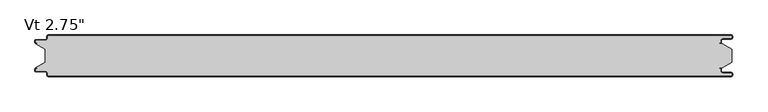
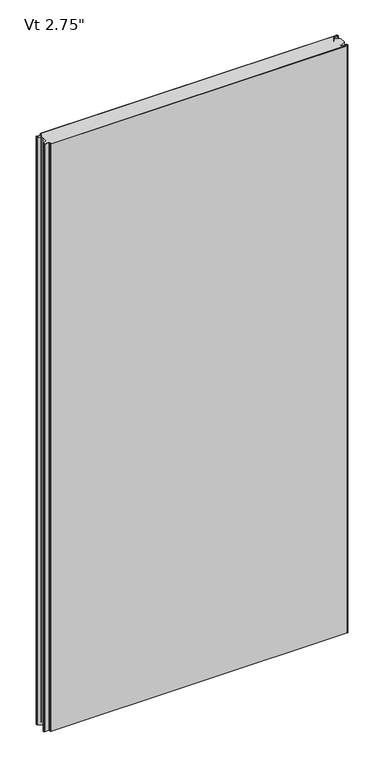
"""IFC4 building model written with IfcOpenShell, lengths in millimetres: plate geometry."""

from ifc_helpers import new_model, si_unit, frame, origin, place, context, project, spatial, polyline, circle_curve, source, transform, mapped, element, save
from ifc_brep_helpers import plane_surface, cylinder_surface, revolved_surface, advanced_brep


def plate_55986730(model_context):
    return source(origin(), model_context, "Body", "AdvancedBrep", [
        advanced_brep(
        [(-572.4125501, -66.9227194, 2400.0), (-570.4352761, -68.8999935, 2400.0), (574.5475652, -68.9, 2400.0), (576.5248337, -66.9227315, 2400.0), (576.5248337, -65.8806329, 2400.0), (574.5475652, -63.9033643, 2400.0), (560.3591802, -63.9033643, 2400.0), (557.7713036, -61.3154878, 2400.0), (557.7713036, -56.9950697, 2400.0), (557.1628365, -56.4060762, 2400.0), (554.7857432, -56.4060762, 2400.0), (554.7857432, -55.4066023, 2400.0), (560.2280123, -55.4066023, 2400.0), (576.2625, -46.1490865, 2400.0), (576.2625, -23.7509179, 2400.0), (560.2280123, -14.4933977, 2400.0), (554.7857432, -14.4933977, 2400.0), (554.7857432, -13.4939238, 2400.0), (557.1628365, -13.4939238, 2400.0), (557.7713036, -12.9049303, 2400.0), (557.7713036, -8.5845122, 2400.0), (560.3591802, -5.9966357, 2400.0), (574.5475652, -5.9966357, 2400.0), (576.5248337, -4.0193671, 2400.0), (576.5248337, -2.9772685, 2400.0), (574.5475652, -1.0, 2400.0), (-570.4352761, -1.0, 2400.0), (-572.4125501, -2.9772806, 2400.0), (-572.4125501, -5.2691705, 2400.0), (-576.3898173, -9.2464377, 2400.0), (-591.9862417, -9.2464377, 2400.0), (-592.5741186, -9.8343146, 2400.0), (-592.5741186, -12.9058635, 2400.0), (-591.986242, -13.4937402, 2400.0), (-589.6312064, -13.4937402, 2400.0), (-589.6312064, -14.4937402, 2400.0), (-591.9207851, -14.4937402, 2400.0), (-576.2625, -23.7509135, 2400.0), (-576.2625, -46.1490865, 2400.0), (-591.9207851, -55.4062598, 2400.0), (-589.6312064, -55.4062598, 2400.0), (-589.6312064, -56.4062598, 2400.0), (-591.986242, -56.4062598, 2400.0), (-592.5741186, -56.9941365, 2400.0), (-592.5741186, -60.0656854, 2400.0), (-591.9862417, -60.6535623, 2400.0), (-576.3898173, -60.6535623, 2400.0), (-572.4125501, -64.6308295, 2400.0), (-572.4125501, -66.9227194, 0.0), (-572.4125501, -64.6308295, 0.0), (-576.3898173, -60.6535623, 0.0), (-591.9862417, -60.6535623, 0.0), (-592.5741186, -60.0656854, 0.0), (-592.5741186, -56.9941365, 0.0), (-591.986242, -56.4062598, 0.0), (-589.6312064, -56.4062598, 0.0), (-589.6312064, -55.4062598, 0.0), (-591.9207851, -55.4062598, 0.0), (-576.2625, -46.1490865, 0.0), (-576.2625, -23.7509179, 0.0), (-591.9207851, -14.4937402, 0.0), (-589.6312064, -14.4937402, 0.0), (-589.6312064, -13.4937402, 0.0), (-591.986242, -13.4937402, 0.0), (-592.5741186, -12.9058635, 0.0), (-592.5741186, -9.8343146, 0.0), (-591.9862417, -9.2464377, 0.0), (-576.3898173, -9.2464377, 0.0), (-572.4125501, -5.2691705, 0.0), (-572.4125501, -2.9772806, 0.0), (-570.4352761, -1.0000065, 0.0), (574.5475652, -1.0, 0.0), (576.5248337, -2.9772685, 0.0), (576.5248337, -4.0193671, 0.0), (574.5475652, -5.9966357, 0.0), (560.3591802, -5.9966357, 0.0), (557.7713036, -8.5845122, 0.0), (557.7713036, -12.9049303, 0.0), (557.1628365, -13.4939238, 0.0), (554.7857432, -13.4939238, 0.0), (554.7857432, -14.4933977, 0.0), (560.2280123, -14.4933977, 0.0), (576.2625, -23.7509135, 0.0), (576.2625, -46.1490865, 0.0), (560.2280123, -55.4066023, 0.0), (554.7857432, -55.4066023, 0.0), (554.7857432, -56.4060762, 0.0), (557.1628365, -56.4060762, 0.0), (557.7713036, -56.9950697, 0.0), (557.7713036, -61.3154878, 0.0), (560.3591802, -63.9033643, 0.0), (574.5475652, -63.9033643, 0.0), (576.5248337, -65.8806329, 0.0), (576.5248337, -66.9227315, 0.0), (574.5475652, -68.9, 0.0), (-570.4352761, -68.9, 0.0)],
        [
            (0, 1, circle_curve(frame((-570.4352761, -66.9227194, 2400.0), z_axis=(0.0, 0.0, 1.0), x_axis=(-1.0, 0.0, 0.0)), 1.977274)),
            (1, 2),
            (2, 3, circle_curve(frame((574.5475652, -66.9227315, 2400.0), z_axis=(0.0, 0.0, 1.0), x_axis=(-1.0, 0.0, 0.0)), 1.9772685)),
            (3, 4),
            (4, 5, circle_curve(frame((574.5475652, -65.8806329, 2400.0), z_axis=(0.0, 0.0, 1.0), x_axis=(-1.0, 0.0, 0.0)), 1.9772685)),
            (5, 6),
            (6, 7, circle_curve(frame((560.3591802, -61.3154878, 2400.0), z_axis=(0.0, 0.0, -1.0), x_axis=(-1.0, 0.0, 0.0)), 2.5878765)),
            (7, 8),
            (8, 9, circle_curve(frame((557.1819985, -56.9950697, 2400.0), z_axis=(0.0, 0.0, 1.0), x_axis=(-1.0, 0.0, 0.0)), 0.5893051)),
            (9, 10),
            (10, 11),
            (11, 12),
            (12, 13),
            (13, 14),
            (14, 15),
            (15, 16),
            (16, 17),
            (17, 18),
            (18, 19, circle_curve(frame((557.1819985, -12.9049303, 2400.0), z_axis=(0.0, 0.0, 1.0), x_axis=(0.0, 1.0, 0.0)), 0.5893051)),
            (19, 20),
            (20, 21, circle_curve(frame((560.3591802, -8.5845122, 2400.0), z_axis=(0.0, 0.0, -1.0), x_axis=(0.0, 1.0, 0.0)), 2.5878765)),
            (21, 22),
            (22, 23, circle_curve(frame((574.5475652, -4.0193671, 2400.0), z_axis=(0.0, 0.0, 1.0), x_axis=(0.0, 1.0, 0.0)), 1.9772685)),
            (23, 24),
            (24, 25, circle_curve(frame((574.5475652, -2.9772685, 2400.0), z_axis=(0.0, 0.0, 1.0), x_axis=(0.0, 1.0, 0.0)), 1.9772685)),
            (25, 26),
            (26, 27, circle_curve(frame((-570.4352761, -2.9772806, 2400.0), z_axis=(0.0, 0.0, 1.0), x_axis=(0.0, 1.0, 0.0)), 1.977274)),
            (27, 28),
            (28, 29, circle_curve(frame((-576.3898173, -5.2691705, 2400.0), z_axis=(0.0, 0.0, -1.0), x_axis=(0.0, 1.0, 0.0)), 3.9772671)),
            (29, 30),
            (30, 31, circle_curve(frame((-591.9862417, -9.8343146, 2400.0), z_axis=(0.0, 0.0, 1.0), x_axis=(0.0, 1.0, 0.0)), 0.5878769)),
            (31, 32),
            (32, 33, circle_curve(frame((-591.986242, -12.9058635, 2400.0), z_axis=(0.0, 0.0, 1.0), x_axis=(0.0, 1.0, 0.0)), 0.5878766)),
            (33, 34),
            (34, 35),
            (35, 36),
            (36, 37),
            (37, 38),
            (38, 39),
            (39, 40),
            (40, 41),
            (41, 42),
            (42, 43, circle_curve(frame((-591.986242, -56.9941365, 2400.0), z_axis=(0.0, 0.0, 1.0), x_axis=(-1.0, 0.0, 0.0)), 0.5878766)),
            (43, 44),
            (44, 45, circle_curve(frame((-591.9862417, -60.0656854, 2400.0), z_axis=(0.0, 0.0, 1.0), x_axis=(-1.0, 0.0, 0.0)), 0.5878769)),
            (45, 46),
            (46, 47, circle_curve(frame((-576.3898173, -64.6308295, 2400.0), z_axis=(0.0, 0.0, -1.0), x_axis=(-1.0, 0.0, 0.0)), 3.9772671)),
            (47, 0),
            (48, 49),
            (49, 50, circle_curve(frame((-576.3898173, -64.6308295, 0.0), z_axis=(0.0, 0.0, 1.0), x_axis=(-1.0, 0.0, 0.0)), 3.9772671)),
            (50, 51),
            (51, 52, circle_curve(frame((-591.9862417, -60.0656854, 0.0), z_axis=(0.0, 0.0, -1.0), x_axis=(-1.0, 0.0, 0.0)), 0.5878769)),
            (52, 53),
            (53, 54, circle_curve(frame((-591.986242, -56.9941365, 0.0), z_axis=(0.0, 0.0, -1.0), x_axis=(-1.0, 0.0, 0.0)), 0.5878766)),
            (54, 55),
            (55, 56),
            (56, 57),
            (57, 58),
            (58, 59),
            (59, 60),
            (60, 61),
            (61, 62),
            (62, 63),
            (63, 64, circle_curve(frame((-591.986242, -12.9058635, 0.0), z_axis=(0.0, 0.0, -1.0), x_axis=(0.0, 1.0, 0.0)), 0.5878766)),
            (64, 65),
            (65, 66, circle_curve(frame((-591.9862417, -9.8343146, 0.0), z_axis=(0.0, 0.0, -1.0), x_axis=(0.0, 1.0, 0.0)), 0.5878769)),
            (66, 67),
            (67, 68, circle_curve(frame((-576.3898173, -5.2691705, 0.0), z_axis=(0.0, 0.0, 1.0), x_axis=(0.0, 1.0, 0.0)), 3.9772671)),
            (68, 69),
            (69, 70, circle_curve(frame((-570.4352761, -2.9772806, 0.0), z_axis=(0.0, 0.0, -1.0), x_axis=(0.0, 1.0, 0.0)), 1.977274)),
            (70, 71),
            (71, 72, circle_curve(frame((574.5475652, -2.9772685, 0.0), z_axis=(0.0, 0.0, -1.0), x_axis=(0.0, 1.0, 0.0)), 1.9772685)),
            (72, 73),
            (73, 74, circle_curve(frame((574.5475652, -4.0193671, 0.0), z_axis=(0.0, 0.0, -1.0), x_axis=(0.0, 1.0, 0.0)), 1.9772685)),
            (74, 75),
            (75, 76, circle_curve(frame((560.3591802, -8.5845122, 0.0), z_axis=(0.0, 0.0, 1.0), x_axis=(0.0, 1.0, 0.0)), 2.5878765)),
            (76, 77),
            (77, 78, circle_curve(frame((557.1819985, -12.9049303, 0.0), z_axis=(0.0, 0.0, -1.0), x_axis=(0.0, 1.0, 0.0)), 0.5893051)),
            (78, 79),
            (79, 80),
            (80, 81),
            (81, 82),
            (82, 83),
            (83, 84),
            (84, 85),
            (85, 86),
            (86, 87),
            (87, 88, circle_curve(frame((557.1819985, -56.9950697, 0.0), z_axis=(0.0, 0.0, -1.0), x_axis=(-1.0, 0.0, 0.0)), 0.5893051)),
            (88, 89),
            (89, 90, circle_curve(frame((560.3591802, -61.3154878, 0.0), z_axis=(0.0, 0.0, 1.0), x_axis=(-1.0, 0.0, 0.0)), 2.5878765)),
            (90, 91),
            (91, 92, circle_curve(frame((574.5475652, -65.8806329, 0.0), z_axis=(0.0, 0.0, -1.0), x_axis=(-1.0, 0.0, 0.0)), 1.9772685)),
            (92, 93),
            (93, 94, circle_curve(frame((574.5475652, -66.9227315, 0.0), z_axis=(0.0, 0.0, -1.0), x_axis=(-1.0, 0.0, 0.0)), 1.9772685)),
            (94, 95),
            (95, 48, circle_curve(frame((-570.4352761, -66.9227194, 0.0), z_axis=(0.0, 0.0, -1.0), x_axis=(-1.0, 0.0, 0.0)), 1.977274)),
            (37, 59),
            (58, 38),
            (13, 83),
            (82, 14),
            (47, 49),
            (48, 0),
            (46, 50),
            (45, 51),
            (44, 52),
            (43, 53),
            (42, 54),
            (41, 55),
            (40, 56),
            (39, 57),
            (12, 84),
            (11, 85),
            (10, 86),
            (9, 87),
            (8, 88),
            (7, 89),
            (6, 90),
            (5, 91),
            (4, 92),
            (3, 93),
            (2, 94),
            (1, 95),
            (26, 70),
            (69, 27),
            (25, 71),
            (24, 72),
            (23, 73),
            (22, 74),
            (21, 75),
            (20, 76),
            (19, 77),
            (18, 78),
            (17, 79),
            (16, 80),
            (15, 81),
            (36, 60),
            (35, 61),
            (34, 62),
            (33, 63),
            (32, 64),
            (31, 65),
            (30, 66),
            (29, 67),
            (28, 68),
        ],
        [
            plane_surface(frame((0.0, -68.9, 2400.0), z_axis=(0.0, 0.0, 1.0), x_axis=(0.0, -1.0, 0.0))),
            plane_surface(frame((0.0, -68.9, 0.0), z_axis=(0.0, 0.0, -1.0), x_axis=(0.0, -1.0, 0.0))),
            plane_surface(frame((-576.2625, -46.1490865, 2400.0), z_axis=(-1.0, 0.0, 0.0), x_axis=(0.0, 0.0, -1.0))),
            plane_surface(frame((576.2625, -23.7509179, 2400.0), z_axis=(1.0, 0.0, 0.0), x_axis=(0.0, 0.0, -1.0))),
            plane_surface(frame((-572.4125501, -66.9227194, 2400.0), z_axis=(-1.0, 0.0, 0.0), x_axis=(0.0, 0.0, -1.0))),
            revolved_surface(polyline([(-580.3670844, -64.6308295, 0.0), (-580.3670844, -64.6308295, 2400.0)]), (-576.3898173, -64.6308295, 2400.0), (0.0, 0.0, -1.0)),
            plane_surface(frame((-576.3898173, -60.6535623, 2400.0), z_axis=(0.0, -1.0, 0.0), x_axis=(0.0, 0.0, -1.0))),
            cylinder_surface(frame((-591.9862417, -60.0656854, 2400.0), z_axis=(0.0, 0.0, 1.0), x_axis=(-1.0, 0.0, 0.0)), 0.5878769),
            plane_surface(frame((-592.5741186, -60.0656854, 2400.0), z_axis=(-1.0, 0.0, 0.0), x_axis=(0.0, 0.0, -1.0))),
            cylinder_surface(frame((-591.986242, -56.9941365, 2400.0), z_axis=(0.0, 0.0, 1.0), x_axis=(-1.0, 0.0, 0.0)), 0.5878766),
            plane_surface(frame((-591.986242, -56.4062598, 2400.0), z_axis=(0.0, 1.0, 0.0), x_axis=(0.0, 0.0, -1.0))),
            plane_surface(frame((-589.6312064, -56.4062598, 2400.0), z_axis=(-1.0, 0.0, 0.0), x_axis=(0.0, 0.0, -1.0))),
            plane_surface(frame((-589.6312064, -55.4062598, 2400.0), z_axis=(0.0, -1.0, 0.0), x_axis=(0.0, 0.0, -1.0))),
            plane_surface(frame((-591.9207851, -55.4062598, 2400.0), z_axis=(-0.5089147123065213, 0.860816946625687, 0.0), x_axis=(0.0, 0.0, -1.0))),
            plane_surface(frame((576.2625, -46.1490865, 2400.0), z_axis=(0.500000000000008, -0.866025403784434, 0.0), x_axis=(0.0, 0.0, -1.0))),
            plane_surface(frame((560.2280123, -55.4066023, 2400.0), z_axis=(0.0, -1.0, 0.0), x_axis=(0.0, 0.0, -1.0))),
            plane_surface(frame((554.7857432, -55.4066023, 2400.0), z_axis=(1.0, 0.0, 0.0), x_axis=(0.0, 0.0, -1.0))),
            plane_surface(frame((554.7857432, -56.4060762, 2400.0), z_axis=(0.0, 1.0, 0.0), x_axis=(0.0, 0.0, -1.0))),
            cylinder_surface(frame((557.1819985, -56.9950697, 2400.0), z_axis=(0.0, 0.0, 1.0), x_axis=(-1.0, 0.0, 0.0)), 0.5893051),
            plane_surface(frame((557.7713036, -56.9950697, 2400.0), z_axis=(1.0, 0.0, 0.0), x_axis=(0.0, 0.0, -1.0))),
            revolved_surface(polyline([(557.7713037, -61.3154878, 0.0), (557.7713037, -61.3154878, 2400.0)]), (560.3591802, -61.3154878, 2400.0), (0.0, 0.0, -1.0)),
            plane_surface(frame((560.3591802, -63.9033643, 2400.0), z_axis=(0.0, 1.0, 0.0), x_axis=(0.0, 0.0, -1.0))),
            cylinder_surface(frame((574.5475652, -65.8806329, 2400.0), z_axis=(0.0, 0.0, 1.0), x_axis=(-1.0, 0.0, 0.0)), 1.9772685),
            plane_surface(frame((576.5248337, -65.8806329, 2400.0), z_axis=(1.0, 0.0, 0.0), x_axis=(0.0, 0.0, -1.0))),
            cylinder_surface(frame((574.5475652, -66.9227315, 2400.0), z_axis=(0.0, 0.0, 1.0), x_axis=(-1.0, 0.0, 0.0)), 1.9772685),
            plane_surface(frame((574.5475652, -68.9, 2400.0), z_axis=(0.0, -1.0, 0.0), x_axis=(0.0, 0.0, -1.0))),
            cylinder_surface(frame((-570.4352761, -66.9227194, 2400.0), z_axis=(0.0, 0.0, 1.0), x_axis=(-1.0, 0.0, 0.0)), 1.977274),
            cylinder_surface(frame((-570.4352761, -2.9772806, 2400.0), z_axis=(0.0, 0.0, 1.0), x_axis=(0.0, 1.0, 0.0)), 1.977274),
            plane_surface(frame((-570.4352761, -1.0, 2400.0), z_axis=(0.0, 1.0, 0.0), x_axis=(0.0, 0.0, -1.0))),
            cylinder_surface(frame((574.5475652, -2.9772685, 2400.0), z_axis=(0.0, 0.0, 1.0), x_axis=(0.0, 1.0, 0.0)), 1.9772685),
            plane_surface(frame((576.5248337, -2.9772685, 2400.0), z_axis=(1.0, 0.0, 0.0), x_axis=(0.0, 0.0, -1.0))),
            cylinder_surface(frame((574.5475652, -4.0193671, 2400.0), z_axis=(0.0, 0.0, 1.0), x_axis=(0.0, 1.0, 0.0)), 1.9772685),
            plane_surface(frame((574.5475652, -5.9966357, 2400.0), z_axis=(0.0, -1.0, 0.0), x_axis=(0.0, 0.0, -1.0))),
            revolved_surface(polyline([(560.3591802, -5.996635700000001, 0.0), (560.3591802, -5.996635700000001, 2400.0)]), (560.3591802, -8.5845122, 2400.0), (0.0, 0.0, -1.0)),
            plane_surface(frame((557.7713036, -8.5845122, 2400.0), z_axis=(1.0, 0.0, 0.0), x_axis=(0.0, 0.0, -1.0))),
            cylinder_surface(frame((557.1819985, -12.9049303, 2400.0), z_axis=(0.0, 0.0, 1.0), x_axis=(0.0, 1.0, 0.0)), 0.5893051),
            plane_surface(frame((557.1628365, -13.4939238, 2400.0), z_axis=(0.0, -1.0, 0.0), x_axis=(0.0, 0.0, -1.0))),
            plane_surface(frame((554.7857432, -13.4939238, 2400.0), z_axis=(1.0, 0.0, 0.0), x_axis=(0.0, 0.0, -1.0))),
            plane_surface(frame((554.7857432, -14.4933977, 2400.0), z_axis=(0.0, 1.0, 0.0), x_axis=(0.0, 0.0, -1.0))),
            plane_surface(frame((560.2280123, -14.4933977, 2400.0), z_axis=(0.5000000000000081, 0.866025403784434, 0.0), x_axis=(0.0, 0.0, -1.0))),
            plane_surface(frame((-576.2625, -23.7509135, 2400.0), z_axis=(-0.5089147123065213, -0.860816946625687, 0.0), x_axis=(0.0, 0.0, -1.0))),
            plane_surface(frame((-591.9207851, -14.4937402, 2400.0), z_axis=(0.0, 1.0, 0.0), x_axis=(0.0, 0.0, -1.0))),
            plane_surface(frame((-589.6312064, -14.4937402, 2400.0), z_axis=(-1.0, 0.0, 0.0), x_axis=(0.0, 0.0, -1.0))),
            plane_surface(frame((-589.6312064, -13.4937402, 2400.0), z_axis=(0.0, -1.0, 0.0), x_axis=(0.0, 0.0, -1.0))),
            cylinder_surface(frame((-591.986242, -12.9058635, 2400.0), z_axis=(0.0, 0.0, 1.0), x_axis=(0.0, 1.0, 0.0)), 0.5878766),
            plane_surface(frame((-592.5741186, -12.9058635, 2400.0), z_axis=(-1.0, 0.0, 0.0), x_axis=(0.0, 0.0, -1.0))),
            cylinder_surface(frame((-591.9862417, -9.8343146, 2400.0), z_axis=(0.0, 0.0, 1.0), x_axis=(0.0, 1.0, 0.0)), 0.5878769),
            plane_surface(frame((-591.9862417, -9.2464377, 2400.0), z_axis=(0.0, 1.0, 0.0), x_axis=(0.0, 0.0, -1.0))),
            revolved_surface(polyline([(-576.3898173, -1.2919034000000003, 0.0), (-576.3898173, -1.2919034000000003, 2400.0)]), (-576.3898173, -5.2691705, 2400.0), (0.0, 0.0, -1.0)),
            plane_surface(frame((-572.4125501, -5.2691705, 2400.0), z_axis=(-1.0, 0.0, 0.0), x_axis=(0.0, 0.0, -1.0))),
        ],
        [
            (0, [[1, 2, 3, 4, 5, 6, 7, 8, 9, 10, 11, 12, 13, 14, 15, 16, 17, 18, 19, 20, 21, 22, 23, 24, 25, 26, 27, 28, 29, 30, 31, 32, 33, 34, 35, 36, 37, 38, 39, 40, 41, 42, 43, 44, 45, 46, 47, 48]]),
            (1, [[49, 50, 51, 52, 53, 54, 55, 56, 57, 58, 59, 60, 61, 62, 63, 64, 65, 66, 67, 68, 69, 70, 71, 72, 73, 74, 75, 76, 77, 78, 79, 80, 81, 82, 83, 84, 85, 86, 87, 88, 89, 90, 91, 92, 93, 94, 95, 96]]),
            (2, [[97, -59, 98, -38]]),
            (3, [[99, -83, 100, -14]]),
            (4, [[101, -49, 102, -48]]),
            (5, [[103, -50, -101, -47]]),
            (6, [[104, -51, -103, -46]]),
            (7, [[105, -52, -104, -45]]),
            (8, [[106, -53, -105, -44]]),
            (9, [[107, -54, -106, -43]]),
            (10, [[108, -55, -107, -42]]),
            (11, [[109, -56, -108, -41]]),
            (12, [[110, -57, -109, -40]]),
            (13, [[-98, -58, -110, -39]]),
            (14, [[111, -84, -99, -13]]),
            (15, [[112, -85, -111, -12]]),
            (16, [[113, -86, -112, -11]]),
            (17, [[114, -87, -113, -10]]),
            (18, [[115, -88, -114, -9]]),
            (19, [[116, -89, -115, -8]]),
            (20, [[117, -90, -116, -7]]),
            (21, [[118, -91, -117, -6]]),
            (22, [[119, -92, -118, -5]]),
            (23, [[120, -93, -119, -4]]),
            (24, [[121, -94, -120, -3]]),
            (25, [[122, -95, -121, -2]]),
            (26, [[-102, -96, -122, -1]]),
            (27, [[123, -70, 124, -27]]),
            (28, [[125, -71, -123, -26]]),
            (29, [[126, -72, -125, -25]]),
            (30, [[127, -73, -126, -24]]),
            (31, [[128, -74, -127, -23]]),
            (32, [[129, -75, -128, -22]]),
            (33, [[130, -76, -129, -21]]),
            (34, [[131, -77, -130, -20]]),
            (35, [[132, -78, -131, -19]]),
            (36, [[133, -79, -132, -18]]),
            (37, [[134, -80, -133, -17]]),
            (38, [[135, -81, -134, -16]]),
            (39, [[-100, -82, -135, -15]]),
            (40, [[136, -60, -97, -37]]),
            (41, [[137, -61, -136, -36]]),
            (42, [[138, -62, -137, -35]]),
            (43, [[139, -63, -138, -34]]),
            (44, [[140, -64, -139, -33]]),
            (45, [[141, -65, -140, -32]]),
            (46, [[142, -66, -141, -31]]),
            (47, [[143, -67, -142, -30]]),
            (48, [[144, -68, -143, -29]]),
            (49, [[-124, -69, -144, -28]]),
        ],
    ),
        advanced_brep(
        [(-572.4123937, -2.9776189, 2400.0), (-570.4354837, -1.0007088, 2400.0), (574.550337, -1.0007088, 2400.0), (576.5262182, -2.97659, 2400.0), (576.5262182, -4.019022, 2400.0), (574.5482568, -5.9969834, 2400.0), (560.3590971, -5.9969834, 2400.0), (557.7713971, -8.5846834, 2400.0), (557.7713971, -12.9049158, 2400.0), (557.1628599, -13.4939528, 2400.0), (554.7857432, -13.4939528, 2400.0), (554.7857432, -14.4933977, 2400.0), (557.1304042, -14.4933977, 2400.0), (558.7713036, -12.9049303, 2400.0), (558.7713036, -8.5845122, 2400.0), (560.3591801, -6.9966356, 2400.0), (574.5475652, -6.9966356, 2400.0), (577.5248337, -4.0193671, 2400.0), (577.5248337, -2.9772685, 2400.0), (574.5475652, 0.0, 2400.0), (-570.4352789, 0.0, 2400.0), (-573.4125474, -2.977286, 2400.0), (-573.4125474, -5.2691698, 2400.0), (-576.3898159, -8.2464384, 2400.0), (-591.9862419, -8.2464384, 2400.0), (-593.5741185, -9.8343149, 2400.0), (-593.5741185, -12.9058636, 2400.0), (-591.9862419, -14.4937401, 2400.0), (-589.6312064, -14.4937401, 2400.0), (-589.6312064, -13.4937365, 2400.0), (-591.9862374, -13.4937365, 2400.0), (-592.5741086, -12.9058654, 2400.0), (-592.5741086, -9.834334, 2400.0), (-591.9862514, -9.2464768, 2400.0), (-576.3897391, -9.2464768, 2400.0), (-572.4123937, -5.2691315, 2400.0), (-572.4123937, -2.9776189, 0.0), (-572.4123937, -5.2691315, 0.0), (-576.3897391, -9.2464768, 0.0), (-591.9862514, -9.2464768, 0.0), (-592.5741086, -9.834334, 0.0), (-592.5741086, -12.9058654, 0.0), (-591.9862374, -13.4937365, 0.0), (-589.6312064, -13.4937365, 0.0), (-589.6312064, -14.4937401, 0.0), (-591.9862419, -14.4937401, 0.0), (-593.5741185, -12.9058636, 0.0), (-593.5741185, -9.8343149, 0.0), (-591.9862419, -8.2464384, 0.0), (-576.3898159, -8.2464384, 0.0), (-573.4125474, -5.2691698, 0.0), (-573.4125474, -2.977286, 0.0), (-570.4352789, -1.75e-05, 0.0), (574.5475652, 0.0, 0.0), (577.5248337, -2.9772685, 0.0), (577.5248337, -4.0193671, 0.0), (574.5475652, -6.9966356, 0.0), (560.3591801, -6.9966356, 0.0), (558.7713036, -8.5845122, 0.0), (558.7713036, -12.9049303, 0.0), (557.1304042, -14.4933977, 0.0), (554.7857432, -14.4933977, 0.0), (554.7857432, -13.4939528, 0.0), (557.1628599, -13.4939528, 0.0), (557.7713971, -12.9049158, 0.0), (557.7713971, -8.5846834, 0.0), (560.3590971, -5.9969834, 0.0), (574.5482568, -5.9969834, 0.0), (576.5262182, -4.019022, 0.0), (576.5262182, -2.97659, 0.0), (574.550337, -1.0007088, 0.0), (-570.4354837, -1.0007088, 0.0)],
        [
            (0, 1, circle_curve(frame((-570.4354837, -2.9776189, 2400.0), z_axis=(0.0, 0.0, -1.0), x_axis=(0.0, 1.0, 0.0)), 1.9769101)),
            (1, 2),
            (2, 3, circle_curve(frame((574.550337, -2.97659, 2400.0), z_axis=(0.0, 0.0, -1.0), x_axis=(0.0, 1.0, 0.0)), 1.9758812)),
            (3, 4),
            (4, 5, circle_curve(frame((574.5482568, -4.019022, 2400.0), z_axis=(0.0, 0.0, -1.0), x_axis=(0.0, 1.0, 0.0)), 1.9779614)),
            (5, 6),
            (6, 7, circle_curve(frame((560.3590971, -8.5846834, 2400.0), z_axis=(0.0, 0.0, 1.0), x_axis=(0.0, 1.0, 0.0)), 2.5877)),
            (7, 8),
            (8, 9, circle_curve(frame((557.1820477, -12.9049158, 2400.0), z_axis=(0.0, 0.0, -1.0), x_axis=(0.0, 1.0, 0.0)), 0.5893495)),
            (9, 10),
            (10, 11),
            (11, 12),
            (12, 13, circle_curve(frame((557.1819985, -12.9049303, 2400.0), z_axis=(0.0, 0.0, 1.0), x_axis=(0.0, 1.0, 0.0)), 1.5893051)),
            (13, 14),
            (14, 15, circle_curve(frame((560.3591801, -8.5845122, 2400.0), z_axis=(0.0, 0.0, -1.0), x_axis=(0.0, 1.0, 0.0)), 1.5878765)),
            (15, 16),
            (16, 17, circle_curve(frame((574.5475652, -4.0193671, 2400.0), z_axis=(0.0, 0.0, 1.0), x_axis=(0.0, 1.0, 0.0)), 2.9772685)),
            (17, 18),
            (18, 19, circle_curve(frame((574.5475652, -2.9772685, 2400.0), z_axis=(0.0, 0.0, 1.0), x_axis=(0.0, 1.0, 0.0)), 2.9772685)),
            (19, 20),
            (20, 21, circle_curve(frame((-570.4352789, -2.977286, 2400.0), z_axis=(0.0, 0.0, 1.0), x_axis=(0.0, 1.0, 0.0)), 2.9772685)),
            (21, 22),
            (22, 23, circle_curve(frame((-576.3898159, -5.2691698, 2400.0), z_axis=(0.0, 0.0, -1.0), x_axis=(0.0, 1.0, 0.0)), 2.9772685)),
            (23, 24),
            (24, 25, circle_curve(frame((-591.9862419, -9.8343149, 2400.0), z_axis=(0.0, 0.0, 1.0), x_axis=(0.0, 1.0, 0.0)), 1.5878765)),
            (25, 26),
            (26, 27, circle_curve(frame((-591.9862419, -12.9058636, 2400.0), z_axis=(0.0, 0.0, 1.0), x_axis=(0.0, 1.0, 0.0)), 1.5878765)),
            (27, 28),
            (28, 29),
            (29, 30),
            (30, 31, circle_curve(frame((-591.9862374, -12.9058654, 2400.0), z_axis=(0.0, 0.0, -1.0), x_axis=(0.0, 1.0, 0.0)), 0.5878711)),
            (31, 32),
            (32, 33, circle_curve(frame((-591.9862514, -9.834334, 2400.0), z_axis=(0.0, 0.0, -1.0), x_axis=(0.0, 1.0, 0.0)), 0.5878572)),
            (33, 34),
            (34, 35, circle_curve(frame((-576.3897391, -5.2691315, 2400.0), z_axis=(0.0, 0.0, 1.0), x_axis=(0.0, 1.0, 0.0)), 3.9773454)),
            (35, 0),
            (36, 37),
            (37, 38, circle_curve(frame((-576.3897391, -5.2691315, 0.0), z_axis=(0.0, 0.0, -1.0), x_axis=(0.0, 1.0, 0.0)), 3.9773454)),
            (38, 39),
            (39, 40, circle_curve(frame((-591.9862514, -9.834334, 0.0), z_axis=(0.0, 0.0, 1.0), x_axis=(0.0, 1.0, 0.0)), 0.5878572)),
            (40, 41),
            (41, 42, circle_curve(frame((-591.9862374, -12.9058654, 0.0), z_axis=(0.0, 0.0, 1.0), x_axis=(0.0, 1.0, 0.0)), 0.5878711)),
            (42, 43),
            (43, 44),
            (44, 45),
            (45, 46, circle_curve(frame((-591.9862419, -12.9058636, 0.0), z_axis=(0.0, 0.0, -1.0), x_axis=(0.0, 1.0, 0.0)), 1.5878765)),
            (46, 47),
            (47, 48, circle_curve(frame((-591.9862419, -9.8343149, 0.0), z_axis=(0.0, 0.0, -1.0), x_axis=(0.0, 1.0, 0.0)), 1.5878765)),
            (48, 49),
            (49, 50, circle_curve(frame((-576.3898159, -5.2691698, 0.0), z_axis=(0.0, 0.0, 1.0), x_axis=(0.0, 1.0, 0.0)), 2.9772685)),
            (50, 51),
            (51, 52, circle_curve(frame((-570.4352789, -2.977286, 0.0), z_axis=(0.0, 0.0, -1.0), x_axis=(0.0, 1.0, 0.0)), 2.9772685)),
            (52, 53),
            (53, 54, circle_curve(frame((574.5475652, -2.9772685, 0.0), z_axis=(0.0, 0.0, -1.0), x_axis=(0.0, 1.0, 0.0)), 2.9772685)),
            (54, 55),
            (55, 56, circle_curve(frame((574.5475652, -4.0193671, 0.0), z_axis=(0.0, 0.0, -1.0), x_axis=(0.0, 1.0, 0.0)), 2.9772685)),
            (56, 57),
            (57, 58, circle_curve(frame((560.3591801, -8.5845122, 0.0), z_axis=(0.0, 0.0, 1.0), x_axis=(0.0, 1.0, 0.0)), 1.5878765)),
            (58, 59),
            (59, 60, circle_curve(frame((557.1819985, -12.9049303, 0.0), z_axis=(0.0, 0.0, -1.0), x_axis=(0.0, 1.0, 0.0)), 1.5893051)),
            (60, 61),
            (61, 62),
            (62, 63),
            (63, 64, circle_curve(frame((557.1820477, -12.9049158, 0.0), z_axis=(0.0, 0.0, 1.0), x_axis=(0.0, 1.0, 0.0)), 0.5893495)),
            (64, 65),
            (65, 66, circle_curve(frame((560.3590971, -8.5846834, 0.0), z_axis=(0.0, 0.0, -1.0), x_axis=(0.0, 1.0, 0.0)), 2.5877)),
            (66, 67),
            (67, 68, circle_curve(frame((574.5482568, -4.019022, 0.0), z_axis=(0.0, 0.0, 1.0), x_axis=(0.0, 1.0, 0.0)), 1.9779614)),
            (68, 69),
            (69, 70, circle_curve(frame((574.550337, -2.97659, 0.0), z_axis=(0.0, 0.0, 1.0), x_axis=(0.0, 1.0, 0.0)), 1.9758812)),
            (70, 71),
            (71, 36, circle_curve(frame((-570.4354837, -2.9776189, 0.0), z_axis=(0.0, 0.0, 1.0), x_axis=(0.0, 1.0, 0.0)), 1.9769101)),
            (35, 37),
            (36, 0),
            (34, 38),
            (33, 39),
            (32, 40),
            (31, 41),
            (30, 42),
            (29, 43),
            (28, 44),
            (27, 45),
            (26, 46),
            (25, 47),
            (24, 48),
            (23, 49),
            (22, 50),
            (21, 51),
            (20, 52),
            (19, 53),
            (18, 54),
            (17, 55),
            (16, 56),
            (15, 57),
            (14, 58),
            (13, 59),
            (12, 60),
            (11, 61),
            (10, 62),
            (9, 63),
            (8, 64),
            (7, 65),
            (6, 66),
            (5, 67),
            (4, 68),
            (3, 69),
            (2, 70),
            (1, 71),
        ],
        [
            plane_surface(frame((0.0, 0.0, 2400.0), z_axis=(0.0, 0.0, 1.0), x_axis=(0.0, 1.0, 0.0))),
            plane_surface(frame((0.0, 0.0, 0.0), z_axis=(0.0, 0.0, -1.0), x_axis=(0.0, 1.0, 0.0))),
            plane_surface(frame((-572.4123937, -2.9776189, 2400.0), z_axis=(1.0, 0.0, 0.0), x_axis=(0.0, 0.0, -1.0))),
            cylinder_surface(frame((-576.3897391, -5.2691315, 2400.0), z_axis=(0.0, 0.0, 1.0), x_axis=(0.0, 1.0, 0.0)), 3.9773454),
            plane_surface(frame((-576.3897391, -9.2464768, 2400.0), z_axis=(0.0, -1.0, 0.0), x_axis=(0.0, 0.0, -1.0))),
            revolved_surface(polyline([(-591.9862514, -9.2464768, 0.0), (-591.9862514, -9.2464768, 2400.0)]), (-591.9862514, -9.834334, 2400.0), (0.0, 0.0, -1.0)),
            plane_surface(frame((-592.5741086, -9.834334, 2400.0), z_axis=(1.0, 0.0, 0.0), x_axis=(0.0, 0.0, -1.0))),
            revolved_surface(polyline([(-591.9862374, -12.3179943, 0.0), (-591.9862374, -12.3179943, 2400.0)]), (-591.9862374, -12.9058654, 2400.0), (0.0, 0.0, -1.0)),
            plane_surface(frame((-591.9862374, -13.4937365, 2400.0), z_axis=(0.0, 1.0, 0.0), x_axis=(0.0, 0.0, -1.0))),
            plane_surface(frame((-589.6312064, -13.4937365, 2400.0), z_axis=(1.0, 0.0, 0.0), x_axis=(0.0, 0.0, -1.0))),
            plane_surface(frame((-589.6312064, -14.4937401, 2400.0), z_axis=(0.0, -1.0, 0.0), x_axis=(0.0, 0.0, -1.0))),
            cylinder_surface(frame((-591.9862419, -12.9058636, 2400.0), z_axis=(0.0, 0.0, 1.0), x_axis=(0.0, 1.0, 0.0)), 1.5878765),
            plane_surface(frame((-593.5741185, -12.9058636, 2400.0), z_axis=(-1.0, 0.0, 0.0), x_axis=(0.0, 0.0, -1.0))),
            cylinder_surface(frame((-591.9862419, -9.8343149, 2400.0), z_axis=(0.0, 0.0, 1.0), x_axis=(0.0, 1.0, 0.0)), 1.5878765),
            plane_surface(frame((-591.9862419, -8.2464384, 2400.0), z_axis=(0.0, 1.0, 0.0), x_axis=(0.0, 0.0, -1.0))),
            revolved_surface(polyline([(-576.3898159, -2.2919013, 0.0), (-576.3898159, -2.2919013, 2400.0)]), (-576.3898159, -5.2691698, 2400.0), (0.0, 0.0, -1.0)),
            plane_surface(frame((-573.4125474, -5.2691698, 2400.0), z_axis=(-1.0, 0.0, 0.0), x_axis=(0.0, 0.0, -1.0))),
            cylinder_surface(frame((-570.4352789, -2.977286, 2400.0), z_axis=(0.0, 0.0, 1.0), x_axis=(0.0, 1.0, 0.0)), 2.9772685),
            plane_surface(frame((-570.4352789, 0.0, 2400.0), z_axis=(0.0, 1.0, 0.0), x_axis=(0.0, 0.0, -1.0))),
            cylinder_surface(frame((574.5475652, -2.9772685, 2400.0), z_axis=(0.0, 0.0, 1.0), x_axis=(0.0, 1.0, 0.0)), 2.9772685),
            plane_surface(frame((577.5248337, -2.9772685, 2400.0), z_axis=(1.0, 0.0, 0.0), x_axis=(0.0, 0.0, -1.0))),
            cylinder_surface(frame((574.5475652, -4.0193671, 2400.0), z_axis=(0.0, 0.0, 1.0), x_axis=(0.0, 1.0, 0.0)), 2.9772685),
            plane_surface(frame((574.5475652, -6.9966356, 2400.0), z_axis=(0.0, -1.0, 0.0), x_axis=(0.0, 0.0, -1.0))),
            revolved_surface(polyline([(560.3591801, -6.996635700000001, 0.0), (560.3591801, -6.996635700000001, 2400.0)]), (560.3591801, -8.5845122, 2400.0), (0.0, 0.0, -1.0)),
            plane_surface(frame((558.7713036, -8.5845122, 2400.0), z_axis=(1.0, 0.0, 0.0), x_axis=(0.0, 0.0, -1.0))),
            cylinder_surface(frame((557.1819985, -12.9049303, 2400.0), z_axis=(0.0, 0.0, 1.0), x_axis=(0.0, 1.0, 0.0)), 1.5893051),
            plane_surface(frame((557.1304042, -14.4933977, 2400.0), z_axis=(0.0, -1.0, 0.0), x_axis=(0.0, 0.0, -1.0))),
            plane_surface(frame((554.7857432, -14.4933977, 2400.0), z_axis=(-1.0, 0.0, 0.0), x_axis=(0.0, 0.0, -1.0))),
            plane_surface(frame((554.7857432, -13.4939528, 2400.0), z_axis=(0.0, 1.0, 0.0), x_axis=(0.0, 0.0, -1.0))),
            revolved_surface(polyline([(557.1820477, -12.3155663, 0.0), (557.1820477, -12.3155663, 2400.0)]), (557.1820477, -12.9049158, 2400.0), (0.0, 0.0, -1.0)),
            plane_surface(frame((557.7713971, -12.9049158, 2400.0), z_axis=(-1.0, 0.0, 0.0), x_axis=(0.0, 0.0, -1.0))),
            cylinder_surface(frame((560.3590971, -8.5846834, 2400.0), z_axis=(0.0, 0.0, 1.0), x_axis=(0.0, 1.0, 0.0)), 2.5877),
            plane_surface(frame((560.3590971, -5.9969834, 2400.0), z_axis=(0.0, 1.0, 0.0), x_axis=(0.0, 0.0, -1.0))),
            revolved_surface(polyline([(574.5482568, -2.0410606, 0.0), (574.5482568, -2.0410606, 2400.0)]), (574.5482568, -4.019022, 2400.0), (0.0, 0.0, -1.0)),
            plane_surface(frame((576.5262182, -4.019022, 2400.0), z_axis=(-1.0, 0.0, 0.0), x_axis=(0.0, 0.0, -1.0))),
            revolved_surface(polyline([(574.550337, -1.0007088, 0.0), (574.550337, -1.0007088, 2400.0)]), (574.550337, -2.97659, 2400.0), (0.0, 0.0, -1.0)),
            plane_surface(frame((574.550337, -1.0007088, 2400.0), z_axis=(0.0, -1.0, 0.0), x_axis=(0.0, 0.0, -1.0))),
            revolved_surface(polyline([(-570.4354837, -1.0007088, 0.0), (-570.4354837, -1.0007088, 2400.0)]), (-570.4354837, -2.9776189, 2400.0), (0.0, 0.0, -1.0)),
        ],
        [
            (0, [[1, 2, 3, 4, 5, 6, 7, 8, 9, 10, 11, 12, 13, 14, 15, 16, 17, 18, 19, 20, 21, 22, 23, 24, 25, 26, 27, 28, 29, 30, 31, 32, 33, 34, 35, 36]]),
            (1, [[37, 38, 39, 40, 41, 42, 43, 44, 45, 46, 47, 48, 49, 50, 51, 52, 53, 54, 55, 56, 57, 58, 59, 60, 61, 62, 63, 64, 65, 66, 67, 68, 69, 70, 71, 72]]),
            (2, [[73, -37, 74, -36]]),
            (3, [[75, -38, -73, -35]]),
            (4, [[76, -39, -75, -34]]),
            (5, [[77, -40, -76, -33]]),
            (6, [[78, -41, -77, -32]]),
            (7, [[79, -42, -78, -31]]),
            (8, [[80, -43, -79, -30]]),
            (9, [[81, -44, -80, -29]]),
            (10, [[82, -45, -81, -28]]),
            (11, [[83, -46, -82, -27]]),
            (12, [[84, -47, -83, -26]]),
            (13, [[85, -48, -84, -25]]),
            (14, [[86, -49, -85, -24]]),
            (15, [[87, -50, -86, -23]]),
            (16, [[88, -51, -87, -22]]),
            (17, [[89, -52, -88, -21]]),
            (18, [[90, -53, -89, -20]]),
            (19, [[91, -54, -90, -19]]),
            (20, [[92, -55, -91, -18]]),
            (21, [[93, -56, -92, -17]]),
            (22, [[94, -57, -93, -16]]),
            (23, [[95, -58, -94, -15]]),
            (24, [[96, -59, -95, -14]]),
            (25, [[97, -60, -96, -13]]),
            (26, [[98, -61, -97, -12]]),
            (27, [[99, -62, -98, -11]]),
            (28, [[100, -63, -99, -10]]),
            (29, [[101, -64, -100, -9]]),
            (30, [[102, -65, -101, -8]]),
            (31, [[103, -66, -102, -7]]),
            (32, [[104, -67, -103, -6]]),
            (33, [[105, -68, -104, -5]]),
            (34, [[106, -69, -105, -4]]),
            (35, [[107, -70, -106, -3]]),
            (36, [[108, -71, -107, -2]]),
            (37, [[-74, -72, -108, -1]]),
        ],
    ),
        advanced_brep(
        [(-572.4123937, -66.9223811, 2400.0), (-572.4123937, -64.6308685, 2400.0), (-576.3897391, -60.6535232, 2400.0), (-591.9862514, -60.6535232, 2400.0), (-592.5741086, -60.065666, 2400.0), (-592.5741086, -56.9941346, 2400.0), (-591.9862374, -56.4062635, 2400.0), (-589.6312064, -56.4062635, 2400.0), (-589.6312064, -55.4062599, 2400.0), (-591.9862419, -55.4062599, 2400.0), (-593.5741185, -56.9941364, 2400.0), (-593.5741185, -60.0656851, 2400.0), (-591.9862419, -61.6535616, 2400.0), (-576.3898159, -61.6535616, 2400.0), (-573.4125474, -64.6308302, 2400.0), (-573.4125474, -66.922714, 2400.0), (-570.4352789, -69.8999825, 2400.0), (574.5475652, -69.9, 2400.0), (577.5248337, -66.9227315, 2400.0), (577.5248337, -65.8806329, 2400.0), (574.5475652, -62.9033644, 2400.0), (560.3591801, -62.9033644, 2400.0), (558.7713036, -61.3154878, 2400.0), (558.7713036, -56.9950697, 2400.0), (557.1304042, -55.4066023, 2400.0), (554.7857432, -55.4066023, 2400.0), (554.7857432, -56.4060472, 2400.0), (557.1628599, -56.4060472, 2400.0), (557.7713971, -56.9950842, 2400.0), (557.7713971, -61.3153166, 2400.0), (560.3590971, -63.9030166, 2400.0), (574.5482568, -63.9030166, 2400.0), (576.5262182, -65.880978, 2400.0), (576.5262182, -66.92341, 2400.0), (574.550337, -68.8992912, 2400.0), (-570.4354837, -68.8992912, 2400.0), (-572.4123937, -66.9223811, 0.0), (-570.4354837, -68.8992912, 0.0), (574.550337, -68.8992912, 0.0), (576.5262182, -66.92341, 0.0), (576.5262182, -65.880978, 0.0), (574.5482568, -63.9030166, 0.0), (560.3590971, -63.9030166, 0.0), (557.7713971, -61.3153166, 0.0), (557.7713971, -56.9950842, 0.0), (557.1628599, -56.4060472, 0.0), (554.7857432, -56.4060472, 0.0), (554.7857432, -55.4066023, 0.0), (557.1304042, -55.4066023, 0.0), (558.7713036, -56.9950697, 0.0), (558.7713036, -61.3154878, 0.0), (560.3591801, -62.9033644, 0.0), (574.5475652, -62.9033644, 0.0), (577.5248337, -65.8806329, 0.0), (577.5248337, -66.9227315, 0.0), (574.5475652, -69.9, 0.0), (-570.4352789, -69.9, 0.0), (-573.4125474, -66.922714, 0.0), (-573.4125474, -64.6308302, 0.0), (-576.3898159, -61.6535616, 0.0), (-591.9862419, -61.6535616, 0.0), (-593.5741185, -60.0656851, 0.0), (-593.5741185, -56.9941364, 0.0), (-591.9862419, -55.4062599, 0.0), (-589.6312064, -55.4062599, 0.0), (-589.6312064, -56.4062635, 0.0), (-591.9862374, -56.4062635, 0.0), (-592.5741086, -56.9941346, 0.0), (-592.5741086, -60.065666, 0.0), (-591.9862514, -60.6535232, 0.0), (-576.3897391, -60.6535232, 0.0), (-572.4123937, -64.6308685, 0.0)],
        [
            (0, 1),
            (1, 2, circle_curve(frame((-576.3897391, -64.6308685, 2400.0), z_axis=(0.0, 0.0, 1.0), x_axis=(-1.0, 0.0, 0.0)), 3.9773454)),
            (2, 3),
            (3, 4, circle_curve(frame((-591.9862514, -60.065666, 2400.0), z_axis=(0.0, 0.0, -1.0), x_axis=(-1.0, 0.0, 0.0)), 0.5878572)),
            (4, 5),
            (5, 6, circle_curve(frame((-591.9862374, -56.9941346, 2400.0), z_axis=(0.0, 0.0, -1.0), x_axis=(-1.0, 0.0, 0.0)), 0.5878711)),
            (6, 7),
            (7, 8),
            (8, 9),
            (9, 10, circle_curve(frame((-591.9862419, -56.9941364, 2400.0), z_axis=(0.0, 0.0, 1.0), x_axis=(-1.0, 0.0, 0.0)), 1.5878765)),
            (10, 11),
            (11, 12, circle_curve(frame((-591.9862419, -60.0656851, 2400.0), z_axis=(0.0, 0.0, 1.0), x_axis=(-1.0, 0.0, 0.0)), 1.5878765)),
            (12, 13),
            (13, 14, circle_curve(frame((-576.3898159, -64.6308302, 2400.0), z_axis=(0.0, 0.0, -1.0), x_axis=(-1.0, 0.0, 0.0)), 2.9772685)),
            (14, 15),
            (15, 16, circle_curve(frame((-570.4352789, -66.922714, 2400.0), z_axis=(0.0, 0.0, 1.0), x_axis=(-1.0, 0.0, 0.0)), 2.9772685)),
            (16, 17),
            (17, 18, circle_curve(frame((574.5475652, -66.9227315, 2400.0), z_axis=(0.0, 0.0, 1.0), x_axis=(-1.0, 0.0, 0.0)), 2.9772685)),
            (18, 19),
            (19, 20, circle_curve(frame((574.5475652, -65.8806329, 2400.0), z_axis=(0.0, 0.0, 1.0), x_axis=(-1.0, 0.0, 0.0)), 2.9772685)),
            (20, 21),
            (21, 22, circle_curve(frame((560.3591801, -61.3154878, 2400.0), z_axis=(0.0, 0.0, -1.0), x_axis=(-1.0, 0.0, 0.0)), 1.5878765)),
            (22, 23),
            (23, 24, circle_curve(frame((557.1819985, -56.9950697, 2400.0), z_axis=(0.0, 0.0, 1.0), x_axis=(-1.0, 0.0, 0.0)), 1.5893051)),
            (24, 25),
            (25, 26),
            (26, 27),
            (27, 28, circle_curve(frame((557.1820477, -56.9950842, 2400.0), z_axis=(0.0, 0.0, -1.0), x_axis=(-1.0, 0.0, 0.0)), 0.5893495)),
            (28, 29),
            (29, 30, circle_curve(frame((560.3590971, -61.3153166, 2400.0), z_axis=(0.0, 0.0, 1.0), x_axis=(-1.0, 0.0, 0.0)), 2.5877)),
            (30, 31),
            (31, 32, circle_curve(frame((574.5482568, -65.880978, 2400.0), z_axis=(0.0, 0.0, -1.0), x_axis=(-1.0, 0.0, 0.0)), 1.9779614)),
            (32, 33),
            (33, 34, circle_curve(frame((574.550337, -66.92341, 2400.0), z_axis=(0.0, 0.0, -1.0), x_axis=(-1.0, 0.0, 0.0)), 1.9758812)),
            (34, 35),
            (35, 0, circle_curve(frame((-570.4354837, -66.9223811, 2400.0), z_axis=(0.0, 0.0, -1.0), x_axis=(-1.0, 0.0, 0.0)), 1.9769101)),
            (36, 37, circle_curve(frame((-570.4354837, -66.9223811, 0.0), z_axis=(0.0, 0.0, 1.0), x_axis=(-1.0, 0.0, 0.0)), 1.9769101)),
            (37, 38),
            (38, 39, circle_curve(frame((574.550337, -66.92341, 0.0), z_axis=(0.0, 0.0, 1.0), x_axis=(-1.0, 0.0, 0.0)), 1.9758812)),
            (39, 40),
            (40, 41, circle_curve(frame((574.5482568, -65.880978, 0.0), z_axis=(0.0, 0.0, 1.0), x_axis=(-1.0, 0.0, 0.0)), 1.9779614)),
            (41, 42),
            (42, 43, circle_curve(frame((560.3590971, -61.3153166, 0.0), z_axis=(0.0, 0.0, -1.0), x_axis=(-1.0, 0.0, 0.0)), 2.5877)),
            (43, 44),
            (44, 45, circle_curve(frame((557.1820477, -56.9950842, 0.0), z_axis=(0.0, 0.0, 1.0), x_axis=(-1.0, 0.0, 0.0)), 0.5893495)),
            (45, 46),
            (46, 47),
            (47, 48),
            (48, 49, circle_curve(frame((557.1819985, -56.9950697, 0.0), z_axis=(0.0, 0.0, -1.0), x_axis=(-1.0, 0.0, 0.0)), 1.5893051)),
            (49, 50),
            (50, 51, circle_curve(frame((560.3591801, -61.3154878, 0.0), z_axis=(0.0, 0.0, 1.0), x_axis=(-1.0, 0.0, 0.0)), 1.5878765)),
            (51, 52),
            (52, 53, circle_curve(frame((574.5475652, -65.8806329, 0.0), z_axis=(0.0, 0.0, -1.0), x_axis=(-1.0, 0.0, 0.0)), 2.9772685)),
            (53, 54),
            (54, 55, circle_curve(frame((574.5475652, -66.9227315, 0.0), z_axis=(0.0, 0.0, -1.0), x_axis=(-1.0, 0.0, 0.0)), 2.9772685)),
            (55, 56),
            (56, 57, circle_curve(frame((-570.4352789, -66.922714, 0.0), z_axis=(0.0, 0.0, -1.0), x_axis=(-1.0, 0.0, 0.0)), 2.9772685)),
            (57, 58),
            (58, 59, circle_curve(frame((-576.3898159, -64.6308302, 0.0), z_axis=(0.0, 0.0, 1.0), x_axis=(-1.0, 0.0, 0.0)), 2.9772685)),
            (59, 60),
            (60, 61, circle_curve(frame((-591.9862419, -60.0656851, 0.0), z_axis=(0.0, 0.0, -1.0), x_axis=(-1.0, 0.0, 0.0)), 1.5878765)),
            (61, 62),
            (62, 63, circle_curve(frame((-591.9862419, -56.9941364, 0.0), z_axis=(0.0, 0.0, -1.0), x_axis=(-1.0, 0.0, 0.0)), 1.5878765)),
            (63, 64),
            (64, 65),
            (65, 66),
            (66, 67, circle_curve(frame((-591.9862374, -56.9941346, 0.0), z_axis=(0.0, 0.0, 1.0), x_axis=(-1.0, 0.0, 0.0)), 0.5878711)),
            (67, 68),
            (68, 69, circle_curve(frame((-591.9862514, -60.065666, 0.0), z_axis=(0.0, 0.0, 1.0), x_axis=(-1.0, 0.0, 0.0)), 0.5878572)),
            (69, 70),
            (70, 71, circle_curve(frame((-576.3897391, -64.6308685, 0.0), z_axis=(0.0, 0.0, -1.0), x_axis=(-1.0, 0.0, 0.0)), 3.9773454)),
            (71, 36),
            (23, 49),
            (48, 24),
            (22, 50),
            (21, 51),
            (20, 52),
            (19, 53),
            (17, 55),
            (54, 18),
            (32, 40),
            (39, 33),
            (38, 34),
            (16, 56),
            (37, 35),
            (36, 0),
            (71, 1),
            (70, 2),
            (69, 3),
            (4, 68),
            (67, 5),
            (66, 6),
            (65, 7),
            (64, 8),
            (63, 9),
            (62, 10),
            (61, 11),
            (60, 12),
            (59, 13),
            (58, 14),
            (57, 15),
            (31, 41),
            (30, 42),
            (29, 43),
            (28, 44),
            (27, 45),
            (26, 46),
            (25, 47),
        ],
        [
            plane_surface(frame((0.0, -69.9, 2400.0), z_axis=(0.0, 0.0, 1.0), x_axis=(0.0, -1.0, 0.0))),
            plane_surface(frame((0.0, -69.9, 0.0), z_axis=(0.0, 0.0, -1.0), x_axis=(0.0, -1.0, 0.0))),
            cylinder_surface(frame((557.1819985, -56.9950697, 2400.0), z_axis=(0.0, 0.0, 1.0), x_axis=(-1.0, 0.0, 0.0)), 1.5893051),
            plane_surface(frame((558.7713036, -56.9950697, 2400.0), z_axis=(1.0, 0.0, 0.0), x_axis=(0.0, 0.0, -1.0))),
            revolved_surface(polyline([(558.7713036, -61.3154878, 0.0), (558.7713036, -61.3154878, 2400.0)]), (560.3591801, -61.3154878, 2400.0), (0.0, 0.0, -1.0)),
            plane_surface(frame((560.3591801, -62.9033644, 2400.0), z_axis=(0.0, 1.0, 0.0), x_axis=(0.0, 0.0, -1.0))),
            cylinder_surface(frame((574.5475652, -65.8806329, 2400.0), z_axis=(0.0, 0.0, 1.0), x_axis=(-1.0, 0.0, 0.0)), 2.9772685),
            cylinder_surface(frame((574.5475652, -66.9227315, 2400.0), z_axis=(0.0, 0.0, 1.0), x_axis=(-1.0, 0.0, 0.0)), 2.9772685),
            plane_surface(frame((576.5262182, -66.92341, 2400.0), z_axis=(-1.0, 0.0, 0.0), x_axis=(0.0, 0.0, -1.0))),
            plane_surface(frame((577.5248337, -65.8806329, 2400.0), z_axis=(1.0, 0.0, 0.0), x_axis=(0.0, 0.0, -1.0))),
            revolved_surface(polyline([(572.5744558, -66.92341, 0.0), (572.5744558, -66.92341, 2400.0)]), (574.550337, -66.92341, 2400.0), (0.0, 0.0, -1.0)),
            plane_surface(frame((574.5475652, -69.9, 2400.0), z_axis=(0.0, -1.0, 0.0), x_axis=(0.0, 0.0, -1.0))),
            plane_surface(frame((-570.4354837, -68.8992912, 2400.0), z_axis=(0.0, 1.0, 0.0), x_axis=(0.0, 0.0, -1.0))),
            revolved_surface(polyline([(-572.4123938, -66.9223811, 0.0), (-572.4123938, -66.9223811, 2400.0)]), (-570.4354837, -66.9223811, 2400.0), (0.0, 0.0, -1.0)),
            plane_surface(frame((-572.4123937, -64.6308685, 2400.0), z_axis=(1.0, 0.0, 0.0), x_axis=(0.0, 0.0, -1.0))),
            cylinder_surface(frame((-576.3897391, -64.6308685, 2400.0), z_axis=(0.0, 0.0, 1.0), x_axis=(-1.0, 0.0, 0.0)), 3.9773454),
            plane_surface(frame((-591.9862514, -60.6535232, 2400.0), z_axis=(0.0, 1.0, 0.0), x_axis=(0.0, 0.0, -1.0))),
            plane_surface(frame((-592.5741086, -56.9941346, 2400.0), z_axis=(1.0, 0.0, 0.0), x_axis=(0.0, 0.0, -1.0))),
            revolved_surface(polyline([(-592.5741085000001, -56.9941346, 0.0), (-592.5741085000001, -56.9941346, 2400.0)]), (-591.9862374, -56.9941346, 2400.0), (0.0, 0.0, -1.0)),
            plane_surface(frame((-589.6312064, -56.4062635, 2400.0), z_axis=(0.0, -1.0, 0.0), x_axis=(0.0, 0.0, -1.0))),
            plane_surface(frame((-589.6312064, -55.4062599, 2400.0), z_axis=(1.0, 0.0, 0.0), x_axis=(0.0, 0.0, -1.0))),
            plane_surface(frame((-591.9862419, -55.4062599, 2400.0), z_axis=(0.0, 1.0, 0.0), x_axis=(0.0, 0.0, -1.0))),
            cylinder_surface(frame((-591.9862419, -56.9941364, 2400.0), z_axis=(0.0, 0.0, 1.0), x_axis=(-1.0, 0.0, 0.0)), 1.5878765),
            plane_surface(frame((-593.5741185, -60.0656851, 2400.0), z_axis=(-1.0, 0.0, 0.0), x_axis=(0.0, 0.0, -1.0))),
            cylinder_surface(frame((-591.9862419, -60.0656851, 2400.0), z_axis=(0.0, 0.0, 1.0), x_axis=(-1.0, 0.0, 0.0)), 1.5878765),
            plane_surface(frame((-576.3898159, -61.6535616, 2400.0), z_axis=(0.0, -1.0, 0.0), x_axis=(0.0, 0.0, -1.0))),
            revolved_surface(polyline([(-579.3670844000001, -64.6308302, 0.0), (-579.3670844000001, -64.6308302, 2400.0)]), (-576.3898159, -64.6308302, 2400.0), (0.0, 0.0, -1.0)),
            plane_surface(frame((-573.4125474, -66.922714, 2400.0), z_axis=(-1.0, 0.0, 0.0), x_axis=(0.0, 0.0, -1.0))),
            cylinder_surface(frame((-570.4352789, -66.922714, 2400.0), z_axis=(0.0, 0.0, 1.0), x_axis=(-1.0, 0.0, 0.0)), 2.9772685),
            revolved_surface(polyline([(-592.5741086, -60.065666, 0.0), (-592.5741086, -60.065666, 2400.0)]), (-591.9862514, -60.065666, 2400.0), (0.0, 0.0, -1.0)),
            revolved_surface(polyline([(572.5702954, -65.880978, 0.0), (572.5702954, -65.880978, 2400.0)]), (574.5482568, -65.880978, 2400.0), (0.0, 0.0, -1.0)),
            plane_surface(frame((574.5482568, -63.9030166, 2400.0), z_axis=(0.0, -1.0, 0.0), x_axis=(0.0, 0.0, -1.0))),
            cylinder_surface(frame((560.3590971, -61.3153166, 2400.0), z_axis=(0.0, 0.0, 1.0), x_axis=(-1.0, 0.0, 0.0)), 2.5877),
            plane_surface(frame((557.7713971, -61.3153166, 2400.0), z_axis=(-1.0, 0.0, 0.0), x_axis=(0.0, 0.0, -1.0))),
            revolved_surface(polyline([(556.5926982, -56.9950842, 0.0), (556.5926982, -56.9950842, 2400.0)]), (557.1820477, -56.9950842, 2400.0), (0.0, 0.0, -1.0)),
            plane_surface(frame((557.1628599, -56.4060472, 2400.0), z_axis=(0.0, -1.0, 0.0), x_axis=(0.0, 0.0, -1.0))),
            plane_surface(frame((554.7857432, -56.4060472, 2400.0), z_axis=(-1.0, 0.0, 0.0), x_axis=(0.0, 0.0, -1.0))),
            plane_surface(frame((554.7857432, -55.4066023, 2400.0), z_axis=(0.0, 1.0, 0.0), x_axis=(0.0, 0.0, -1.0))),
        ],
        [
            (0, [[1, 2, 3, 4, 5, 6, 7, 8, 9, 10, 11, 12, 13, 14, 15, 16, 17, 18, 19, 20, 21, 22, 23, 24, 25, 26, 27, 28, 29, 30, 31, 32, 33, 34, 35, 36]]),
            (1, [[37, 38, 39, 40, 41, 42, 43, 44, 45, 46, 47, 48, 49, 50, 51, 52, 53, 54, 55, 56, 57, 58, 59, 60, 61, 62, 63, 64, 65, 66, 67, 68, 69, 70, 71, 72]]),
            (2, [[73, -49, 74, -24]]),
            (3, [[75, -50, -73, -23]]),
            (4, [[76, -51, -75, -22]]),
            (5, [[77, -52, -76, -21]]),
            (6, [[78, -53, -77, -20]]),
            (7, [[79, -55, 80, -18]]),
            (8, [[81, -40, 82, -33]]),
            (9, [[-80, -54, -78, -19]]),
            (10, [[-82, -39, 83, -34]]),
            (11, [[84, -56, -79, -17]]),
            (12, [[-83, -38, 85, -35]]),
            (13, [[-85, -37, 86, -36]]),
            (14, [[-86, -72, 87, -1]]),
            (15, [[-87, -71, 88, -2]]),
            (16, [[-88, -70, 89, -3]]),
            (17, [[90, -68, 91, -5]]),
            (18, [[-91, -67, 92, -6]]),
            (19, [[-92, -66, 93, -7]]),
            (20, [[-93, -65, 94, -8]]),
            (21, [[-94, -64, 95, -9]]),
            (22, [[-95, -63, 96, -10]]),
            (23, [[-96, -62, 97, -11]]),
            (24, [[-97, -61, 98, -12]]),
            (25, [[-98, -60, 99, -13]]),
            (26, [[-99, -59, 100, -14]]),
            (27, [[-100, -58, 101, -15]]),
            (28, [[-101, -57, -84, -16]]),
            (29, [[-89, -69, -90, -4]]),
            (30, [[102, -41, -81, -32]]),
            (31, [[103, -42, -102, -31]]),
            (32, [[104, -43, -103, -30]]),
            (33, [[105, -44, -104, -29]]),
            (34, [[106, -45, -105, -28]]),
            (35, [[107, -46, -106, -27]]),
            (36, [[108, -47, -107, -26]]),
            (37, [[-74, -48, -108, -25]]),
        ],
    ),
    ])


if __name__ == "__main__":
    model = new_model("IFC4")
    model_context = context("Model", 3, world=origin())
    ifc_project = project(units=[si_unit("LENGTHUNIT", "METRE", prefix="MILLI")], contexts=[model_context])
    site = spatial("IfcSite", under=ifc_project)
    building = spatial("IfcBuilding", under=site)
    placement = place(None, origin())
    plate_shape = plate_55986730(model_context)
    element("IfcPlate", 1, ObjectType="KIP-SLI-FLI-R19-CP-Vt-FL_FL : Vt 2.75\"", at=placement, inside=building, context=model_context, shape_type="MappedRepresentation", body=[
        mapped(plate_shape, transform((0.0, 0.0, 0.0), x_axis=(1.0, 0.0, 0.0), y_axis=(0.0, 1.0, 0.0), z_axis=(0.0, 0.0, 1.0))),
    ])
    save(model, "model.ifc")
